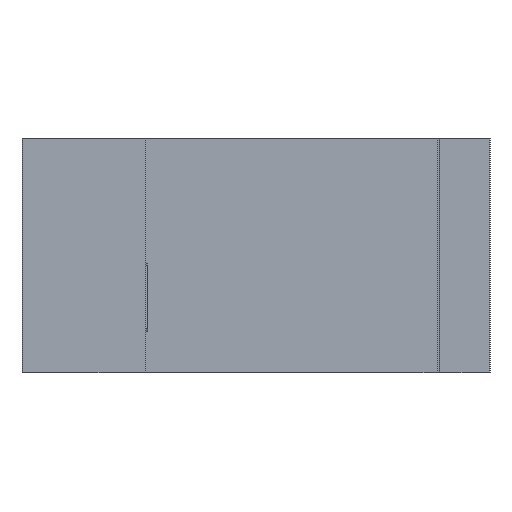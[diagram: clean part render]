
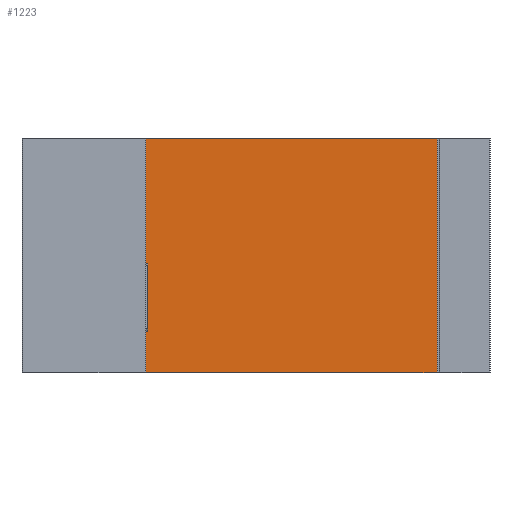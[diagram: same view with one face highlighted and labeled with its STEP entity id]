
A CAD part, front view. The second image highlights one B-rep face of the part: STEP entity #1223.
In plain terms, the highlighted planar face has unit normal (0, -1, 0).
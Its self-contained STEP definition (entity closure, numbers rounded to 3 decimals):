
#643 = VERTEX_POINT( '', #1802 );
#667 = VERTEX_POINT( '', #1827 );
#743 = EDGE_CURVE( '', #1723, #1273, #1905, .T. );
#797 = EDGE_CURVE( '', #803, #1723, #1964, .T. );
#803 = VERTEX_POINT( '', #1970 );
#825 = EDGE_CURVE( '', #971, #643, #1995, .T. );
#841 = VERTEX_POINT( '', #2011 );
#971 = VERTEX_POINT( '', #2153 );
#1045 = EDGE_CURVE( '', #667, #841, #2234, .T. );
#1117 = EDGE_CURVE( '', #1667, #803, #2317, .T. );
#1223 = ADVANCED_FACE( '', ( #2439 ), #2440, .T. );
#1243 = EDGE_CURVE( '', #841, #643, #2462, .T. );
#1273 = VERTEX_POINT( '', #2496 );
#1385 = EDGE_CURVE( '', #971, #1273, #2622, .T. );
#1447 = EDGE_CURVE( '', #667, #1667, #2692, .T. );
#1667 = VERTEX_POINT( '', #2941 );
#1723 = VERTEX_POINT( '', #3011 );
#1802 = CARTESIAN_POINT( '', ( -21.3, 11.65, -25.605 ) );
#1827 = CARTESIAN_POINT( '', ( -21., 11.65, -20.395 ) );
#1905 = LINE( '', #3254, #3255 );
#1964 = LINE( '', #3333, #3334 );
#1970 = CARTESIAN_POINT( '', ( -21.3, 11.65, 0. ) );
#1995 = LINE( '', #3381, #3382 );
#2011 = CARTESIAN_POINT( '', ( -21., 11.65, -25.605 ) );
#2153 = CARTESIAN_POINT( '', ( -21.3, 11.65, -34. ) );
#2234 = LINE( '', #3710, #3711 );
#2317 = LINE( '', #3825, #3826 );
#2439 = FACE_OUTER_BOUND( '', #3983, .T. );
#2440 = PLANE( '', #3984 );
#2462 = LINE( '', #4016, #4017 );
#2496 = CARTESIAN_POINT( '', ( 21., 11.65, -34. ) );
#2622 = LINE( '', #4234, #4235 );
#2692 = LINE( '', #4330, #4331 );
#2941 = CARTESIAN_POINT( '', ( -21.3, 11.65, -20.395 ) );
#3011 = CARTESIAN_POINT( '', ( 21., 11.65, 0. ) );
#3254 = CARTESIAN_POINT( '', ( 21., 11.65, 0. ) );
#3255 = VECTOR( '', #4890, 1. );
#3333 = CARTESIAN_POINT( '', ( -21., 11.65, 0. ) );
#3334 = VECTOR( '', #4942, 1. );
#3381 = CARTESIAN_POINT( '', ( -21.3, 11.65, -34. ) );
#3382 = VECTOR( '', #4982, 1. );
#3710 = CARTESIAN_POINT( '', ( -21., 11.65, 0. ) );
#3711 = VECTOR( '', #5225, 1. );
#3825 = CARTESIAN_POINT( '', ( -21.3, 11.65, -20.395 ) );
#3826 = VECTOR( '', #5326, 1. );
#3983 = EDGE_LOOP( '', ( #5473, #5474, #5475, #5476, #5477, #5478, #5479, #5480 ) );
#3984 = AXIS2_PLACEMENT_3D( '', #5481, #5482, #5483 );
#4016 = CARTESIAN_POINT( '', ( -2.8, 11.65, -25.605 ) );
#4017 = VECTOR( '', #5507, 1. );
#4234 = CARTESIAN_POINT( '', ( -21., 11.65, -34. ) );
#4235 = VECTOR( '', #5712, 1. );
#4330 = CARTESIAN_POINT( '', ( -2.8, 11.65, -20.395 ) );
#4331 = VECTOR( '', #5785, 1. );
#4890 = DIRECTION( '', ( 0., 0., -1. ) );
#4942 = DIRECTION( '', ( 1., 0., 0. ) );
#4982 = DIRECTION( '', ( 0., 0., 1. ) );
#5225 = DIRECTION( '', ( 0., 0., -1. ) );
#5326 = DIRECTION( '', ( 0., 0., 1. ) );
#5473 = ORIENTED_EDGE( '', *, *, #1385, .T. );
#5474 = ORIENTED_EDGE( '', *, *, #743, .F. );
#5475 = ORIENTED_EDGE( '', *, *, #797, .F. );
#5476 = ORIENTED_EDGE( '', *, *, #1117, .F. );
#5477 = ORIENTED_EDGE( '', *, *, #1447, .F. );
#5478 = ORIENTED_EDGE( '', *, *, #1045, .T. );
#5479 = ORIENTED_EDGE( '', *, *, #1243, .T. );
#5480 = ORIENTED_EDGE( '', *, *, #825, .F. );
#5481 = CARTESIAN_POINT( '', ( -21., 11.65, 0. ) );
#5482 = DIRECTION( '', ( 0., -1., 0. ) );
#5483 = DIRECTION( '', ( -1., 0., 0. ) );
#5507 = DIRECTION( '', ( -1., 0., 0. ) );
#5712 = DIRECTION( '', ( 1., 0., 0. ) );
#5785 = DIRECTION( '', ( -1., 0., 0. ) );
